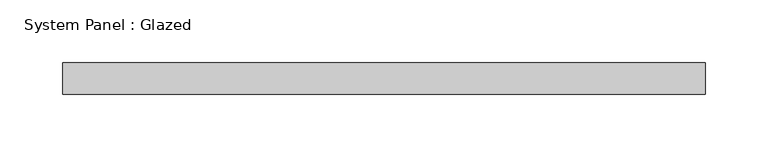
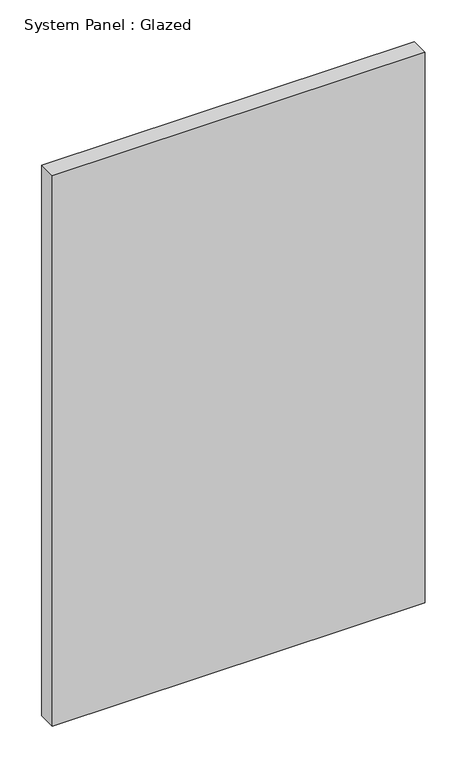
"""IFC4 building model written with IfcOpenShell, lengths in millimetres: plate geometry, System Panel : Glazed."""

from ifc_helpers import new_model, si_unit, origin, origin_with_axes, place, context, project, spatial, polyline, outline, extrude, source, transform, mapped, element, save


def system_panel_glazed_2fbd7c10(model_context):
    return source(origin(), model_context, "Body", "SweptSolid", [
        extrude(outline(polyline([(257.175, 19.05), (-257.175, 19.05), (-257.175, 44.45), (257.175, 44.45), (257.175, 19.05)])), origin_with_axes(), (0.0, 0.0, 1.0), 802.4190025),
    ])


if __name__ == "__main__":
    model = new_model("IFC4")
    model_context = context("Model", 3, world=origin())
    ifc_project = project(units=[si_unit("LENGTHUNIT", "METRE", prefix="MILLI")], contexts=[model_context])
    site = spatial("IfcSite", under=ifc_project)
    building = spatial("IfcBuilding", under=site)
    placement = place(None, origin())
    system_panel_glazed_shape = system_panel_glazed_2fbd7c10(model_context)
    element("IfcPlate", 1, ObjectType="System Panel : Glazed", at=placement, inside=building, context=model_context, shape_type="MappedRepresentation", body=[
        mapped(system_panel_glazed_shape, transform((0.0, 0.0, 0.0), x_axis=(1.0, 0.0, 0.0), y_axis=(0.0, 1.0, 0.0), z_axis=(0.0, 0.0, 1.0))),
    ])
    save(model, "model.ifc")
